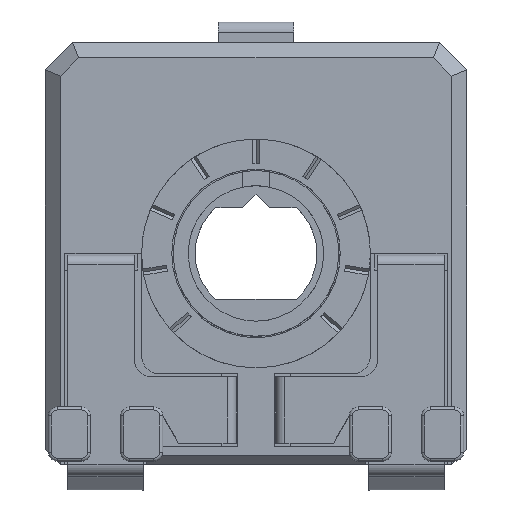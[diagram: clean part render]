
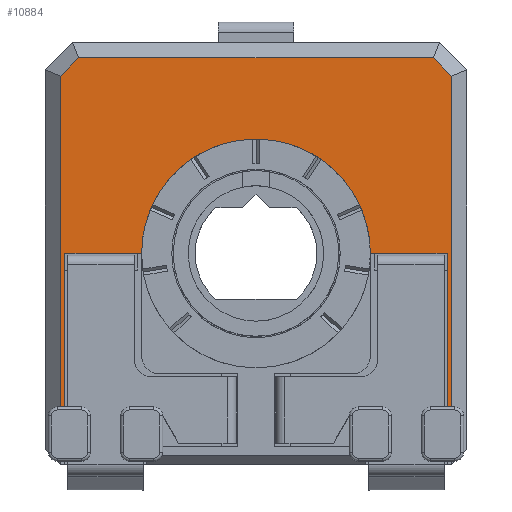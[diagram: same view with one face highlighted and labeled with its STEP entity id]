
A CAD part, top view. The second image highlights one B-rep face of the part: STEP entity #10884.
In plain terms, the highlighted planar face has unit normal (0, 0, 1).
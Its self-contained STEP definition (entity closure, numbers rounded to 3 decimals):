
#359=CIRCLE('',#11671,3.8);
#947=FACE_OUTER_BOUND('',#1507,.T.);
#1507=EDGE_LOOP('',(#9173,#9174,#9175,#9176,#9177,#9178,#9179,#9180,#9181,
#9182,#9183,#9184));
#1862=LINE('',#15418,#3094);
#1930=LINE('',#15671,#3162);
#2170=LINE('',#16414,#3402);
#2173=LINE('',#16419,#3405);
#2445=LINE('',#17071,#3677);
#2478=LINE('',#17198,#3710);
#2701=LINE('',#17747,#3933);
#2702=LINE('',#17750,#3934);
#2703=LINE('',#17751,#3935);
#2704=LINE('',#17754,#3936);
#2705=LINE('',#17755,#3937);
#3094=VECTOR('',#12421,10.);
#3162=VECTOR('',#12703,10.);
#3402=VECTOR('',#13229,10.);
#3405=VECTOR('',#13234,10.);
#3677=VECTOR('',#13656,10.);
#3710=VECTOR('',#13731,10.);
#3933=VECTOR('',#14252,10.);
#3934=VECTOR('',#14255,10.);
#3935=VECTOR('',#14256,10.);
#3936=VECTOR('',#14259,10.);
#3937=VECTOR('',#14260,10.);
#4264=VERTEX_POINT('',#15219);
#4323=VERTEX_POINT('',#15417);
#4400=VERTEX_POINT('',#15668);
#4401=VERTEX_POINT('',#15670);
#4448=VERTEX_POINT('',#15824);
#4449=VERTEX_POINT('',#15826);
#4604=VERTEX_POINT('',#16410);
#4605=VERTEX_POINT('',#16412);
#4814=VERTEX_POINT('',#17067);
#4840=VERTEX_POINT('',#17197);
#4971=VERTEX_POINT('',#17749);
#4972=VERTEX_POINT('',#17753);
#5411=EDGE_CURVE('',#4323,#4264,#1862,.T.);
#5537=EDGE_CURVE('',#4401,#4400,#1930,.T.);
#5843=EDGE_CURVE('',#4605,#4604,#2170,.T.);
#5846=EDGE_CURVE('',#4604,#4400,#2173,.T.);
#6139=EDGE_CURVE('',#4323,#4814,#2445,.T.);
#6184=EDGE_CURVE('',#4814,#4840,#2478,.T.);
#6434=EDGE_CURVE('',#4840,#4605,#2701,.T.);
#6435=EDGE_CURVE('',#4264,#4971,#2702,.T.);
#6436=EDGE_CURVE('',#4971,#4449,#2703,.T.);
#6437=EDGE_CURVE('',#4449,#4448,#359,.T.);
#6438=EDGE_CURVE('',#4448,#4972,#2704,.T.);
#6439=EDGE_CURVE('',#4972,#4401,#2705,.T.);
#9173=ORIENTED_EDGE('',*,*,#5411,.T.);
#9174=ORIENTED_EDGE('',*,*,#6435,.T.);
#9175=ORIENTED_EDGE('',*,*,#6436,.T.);
#9176=ORIENTED_EDGE('',*,*,#6437,.T.);
#9177=ORIENTED_EDGE('',*,*,#6438,.T.);
#9178=ORIENTED_EDGE('',*,*,#6439,.T.);
#9179=ORIENTED_EDGE('',*,*,#5537,.T.);
#9180=ORIENTED_EDGE('',*,*,#5846,.F.);
#9181=ORIENTED_EDGE('',*,*,#5843,.F.);
#9182=ORIENTED_EDGE('',*,*,#6434,.F.);
#9183=ORIENTED_EDGE('',*,*,#6184,.F.);
#9184=ORIENTED_EDGE('',*,*,#6139,.F.);
#10135=PLANE('',#11670);
#10884=ADVANCED_FACE('',(#947),#10135,.T.);
#11670=AXIS2_PLACEMENT_3D('',#17748,#14253,#14254);
#11671=AXIS2_PLACEMENT_3D('',#17752,#14257,#14258);
#12421=DIRECTION('',(1.,0.,0.));
#12703=DIRECTION('',(1.,0.,0.));
#13229=DIRECTION('',(0.707,-0.707,0.));
#13234=DIRECTION('',(0.,-1.,0.));
#13656=DIRECTION('',(0.,1.,0.));
#13731=DIRECTION('',(0.707,0.707,0.));
#14252=DIRECTION('',(1.,0.,0.));
#14253=DIRECTION('center_axis',(0.,0.,1.));
#14254=DIRECTION('ref_axis',(1.,0.,0.));
#14255=DIRECTION('',(0.,1.,0.));
#14256=DIRECTION('',(1.,0.,0.));
#14257=DIRECTION('center_axis',(0.,0.,-1.));
#14258=DIRECTION('ref_axis',(-1.,0.,0.));
#14259=DIRECTION('',(1.,0.,0.));
#14260=DIRECTION('',(0.,-1.,0.));
#15219=CARTESIAN_POINT('',(-13.817,-7.998,4.4));
#15417=CARTESIAN_POINT('',(-13.967,-7.998,4.4));
#15418=CARTESIAN_POINT('',(-10.217,-7.998,4.4));
#15668=CARTESIAN_POINT('',(-0.967,-7.998,4.4));
#15670=CARTESIAN_POINT('',(-1.117,-7.998,4.4));
#15671=CARTESIAN_POINT('',(-4.017,-7.998,4.4));
#15824=CARTESIAN_POINT('',(-3.667,-2.898,4.4));
#15826=CARTESIAN_POINT('',(-11.267,-2.898,4.4));
#16410=CARTESIAN_POINT('',(-0.967,2.994,4.4));
#16412=CARTESIAN_POINT('',(-1.574,3.602,4.4));
#16414=CARTESIAN_POINT('',(-1.271,3.298,4.4));
#16419=CARTESIAN_POINT('',(-0.967,0.602,4.4));
#17067=CARTESIAN_POINT('',(-13.967,2.994,4.4));
#17071=CARTESIAN_POINT('',(-13.967,-6.398,4.4));
#17197=CARTESIAN_POINT('',(-13.36,3.602,4.4));
#17198=CARTESIAN_POINT('',(-13.663,3.298,4.4));
#17747=CARTESIAN_POINT('',(-10.967,3.602,4.4));
#17748=CARTESIAN_POINT('Origin',(-7.467,-2.898,4.4));
#17749=CARTESIAN_POINT('',(-13.817,-2.898,4.4));
#17750=CARTESIAN_POINT('',(-13.817,-3.173,4.4));
#17751=CARTESIAN_POINT('',(-9.442,-2.898,4.4));
#17752=CARTESIAN_POINT('Origin',(-7.467,-2.898,4.4));
#17753=CARTESIAN_POINT('',(-1.117,-2.898,4.4));
#17754=CARTESIAN_POINT('',(-5.492,-2.898,4.4));
#17755=CARTESIAN_POINT('',(-1.117,-2.898,4.4));
